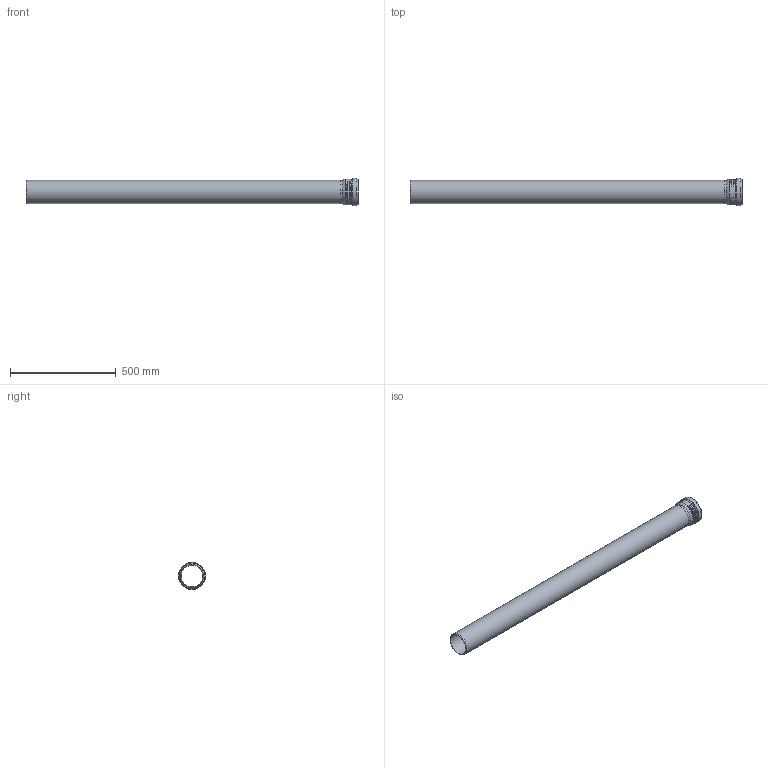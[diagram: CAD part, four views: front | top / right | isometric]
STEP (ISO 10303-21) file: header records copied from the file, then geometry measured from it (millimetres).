
FILE_DESCRIPTION(/* description */ (''),/* implementation_level */ '2;1');
FILE_NAME(/* name */ 'H:\Geberit-Teile\Export\PP_Rohr\stp\393505.stp',/* time_stamp */ '2017-02-13T16:08:37+01:00',/* author */ ('seihe2'),/* organization */ (''),/* preprocessor_version */ 'ST-DEVELOPER v15.2',/* originating_system */ 'Autodesk Inventor 2014',/* authorisation */ '');
FILE_SCHEMA (('AUTOMOTIVE_DESIGN { 1 0 10303 214 3 1 1 }'));
Length unit declared in the file: millimetre
Products named in the file (1): 393505
Bounding box: 1568.1 x 128.7 x 128.7 mm (x, y, z)
Volume: 2376392.6 mm3; surface area: 1068818.7 mm2
Topology: 2 solids, 2 shells, 38 faces, 81 edges, 56 vertices
Faces by surface type: torus 17, cylinder 10, plane 8, cone 2, bspline 1
Full cylindrical faces by diameter (mm): 101.2 x2, 110.2 x2, 111.1 x1, 113.7 x1, 119.5 x1, 121.3 x1, 122.1 x1, 128.7 x1
Entity records: 2113 total; most frequent: CARTESIAN_POINT 1334, DIRECTION 130, ORIENTED_EDGE 124, EDGE_LOOP 69, AXIS2_PLACEMENT_3D 65, EDGE_CURVE 62, VERTEX_POINT 55, STYLED_ITEM 40
